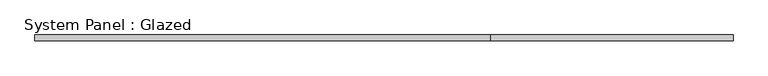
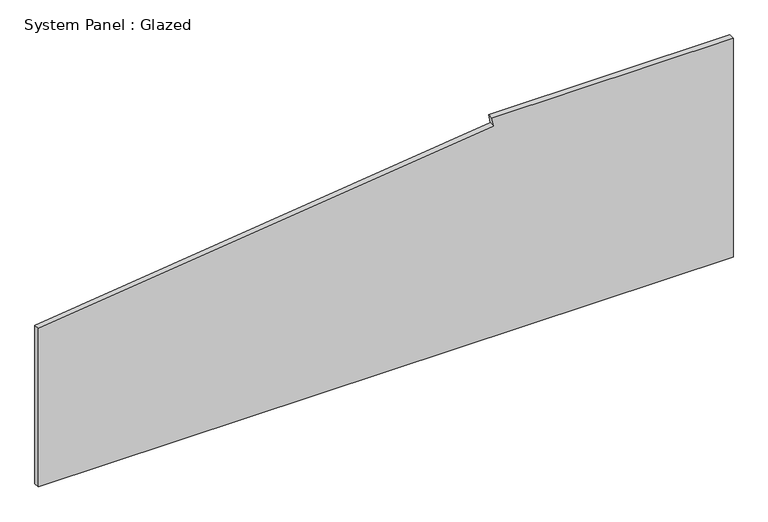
"""IFC4 building model written with IfcOpenShell, lengths in millimetres: plate geometry, System Panel : Glazed."""

from ifc_helpers import new_model, si_unit, frame, origin, place, context, project, spatial, polyline, outline, extrude, source, transform, mapped, element, save


def system_panel_glazed_47c8b272(model_context):
    return source(origin(), model_context, "Body", "SweptSolid", [
        extrude(outline(polyline([(0.0, -1504.95), (0.0, 1504.95), (1003.3, 1504.95), (1003.3, 460.0459701), (963.0444366, 468.6927688), (726.0392543, -1504.95), (0.0, -1504.95)])), frame((0.0, 19.05, 0.0), z_axis=(0.0, 1.0, 0.0), x_axis=(0.0, 0.0, 1.0)), (0.0, 0.0, 1.0), 25.4),
    ])


if __name__ == "__main__":
    model = new_model("IFC4")
    model_context = context("Model", 3, world=origin())
    ifc_project = project(units=[si_unit("LENGTHUNIT", "METRE", prefix="MILLI")], contexts=[model_context])
    site = spatial("IfcSite", under=ifc_project)
    building = spatial("IfcBuilding", under=site)
    placement = place(None, origin())
    system_panel_glazed_shape = system_panel_glazed_47c8b272(model_context)
    element("IfcPlate", 1, ObjectType="System Panel : Glazed", at=placement, inside=building, context=model_context, shape_type="MappedRepresentation", body=[
        mapped(system_panel_glazed_shape, transform((0.0, 0.0, 0.0), x_axis=(1.0, 0.0, 0.0), y_axis=(0.0, 1.0, 0.0), z_axis=(0.0, 0.0, 1.0))),
    ])
    save(model, "model.ifc")
